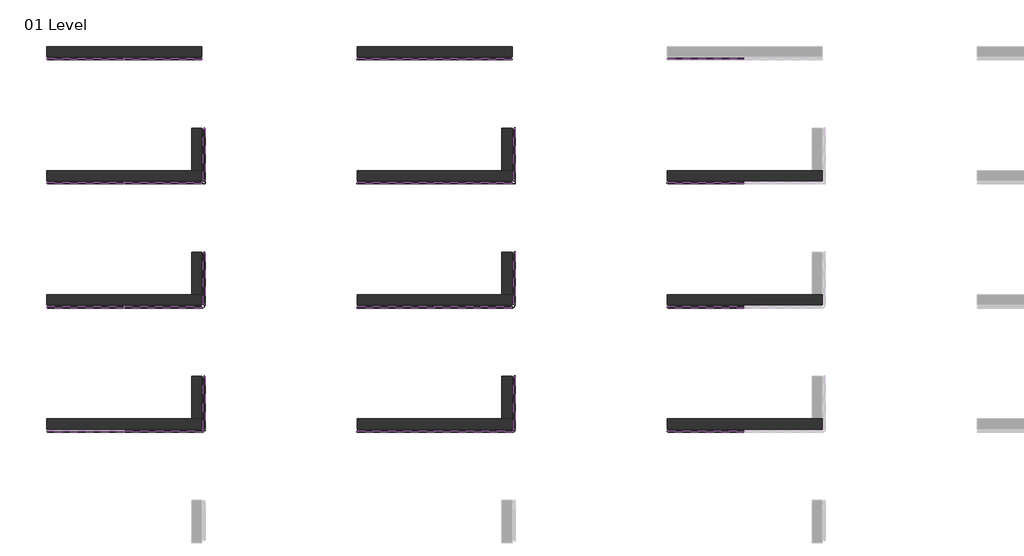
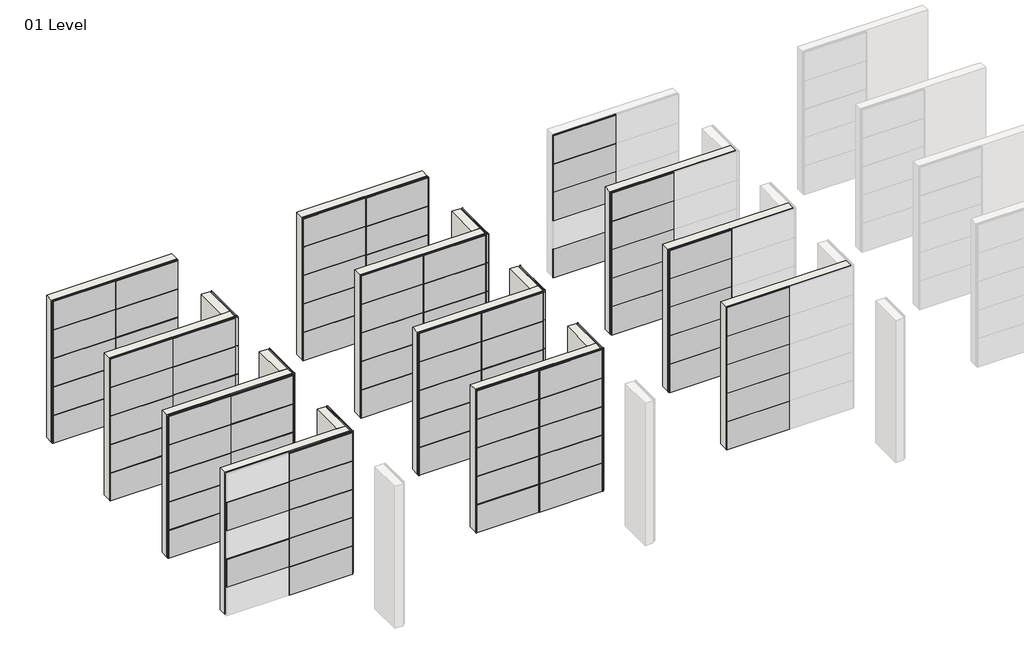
# One storey, part 7 of 9: 126 plates, 17 walls.
"""IFC4 building model written with IfcOpenShell, lengths in millimetres."""

from ifc_helpers import new_model, si_unit, origin, origin_with_axes, place, context, project, spatial, polyline, outline, extrude, faceted_brep, transform, mapped, element, save
from components import plate_15c921bf, plate_de628dbf, plate_a0032974, plate_63a3148d, plate_7878da5e, plate_3f1cfa51, plate_16f9e6c7, plate_a6211809, plate_71f49f83, plate_fe9ce33a, plate_b385fc11, plate_c9a1b884, plate_4a609bfb, plate_784343d8, plate_0904af44

model = new_model("IFC4")

# Units and contexts
model_context = context("Model", 3, world=origin())
ifc_project = project(units=[si_unit("LENGTHUNIT", "METRE", prefix="MILLI")], contexts=[model_context])

# Site, building, storey
site = spatial("IfcSite", under=ifc_project)
building = spatial("IfcBuilding", under=site)
storey = spatial("IfcBuildingStorey", under=building, Name="01 Level", Elevation=0.0)

# Plates
placement = place(None, origin())
plate_shape = plate_15c921bf(model_context)
element("IfcPlate", 1, ObjectType="Trimo_Qbiss Screen_Normal Panel-HORIZONTAL : HR - B", at=placement, inside=storey, context=model_context, shape_type="MappedRepresentation", body=[
    mapped(plate_shape, transform((-34952.2237135, 12916.7286683, 0.0), x_axis=(-1.0, 0.0, 0.0), y_axis=(0.0, -1.0, 0.0), z_axis=(0.0, 0.0, 1.0))),
])
element("IfcPlate", 2, ObjectType="Trimo_Qbiss Screen_Normal Panel-HORIZONTAL : HR - B", at=placement, inside=storey, context=model_context, shape_type="MappedRepresentation", body=[
    mapped(plate_shape, transform((-37452.2237135, 12916.7286683, 0.0), x_axis=(-1.0, 0.0, 0.0), y_axis=(0.0, -1.0, 0.0), z_axis=(0.0, 0.0, 1.0))),
])
element("IfcPlate", 3, ObjectType="Trimo_Qbiss Screen_Normal Panel-HORIZONTAL : HR - B", at=placement, inside=storey, context=model_context, shape_type="MappedRepresentation", body=[
    mapped(plate_shape, transform((-34952.2237135, 12916.7286683, 4800.0), x_axis=(-1.0, 0.0, 0.0), y_axis=(0.0, -1.0, 0.0), z_axis=(0.0, 0.0, 1.0))),
])
element("IfcPlate", 4, ObjectType="Trimo_Qbiss Screen_Normal Panel-HORIZONTAL : HR - B", at=placement, inside=storey, context=model_context, shape_type="MappedRepresentation", body=[
    mapped(plate_shape, transform((-37452.2237135, 12916.7286683, 4800.0), x_axis=(-1.0, 0.0, 0.0), y_axis=(0.0, -1.0, 0.0), z_axis=(0.0, 0.0, 1.0))),
])
element("IfcPlate", 5, ObjectType="Trimo_Qbiss Screen_Normal Panel-HORIZONTAL : HR - B", at=placement, inside=storey, context=model_context, shape_type="MappedRepresentation", body=[
    mapped(plate_shape, transform((-34952.2237135, 12916.7286683, 2400.0), x_axis=(-1.0, 0.0, 0.0), y_axis=(0.0, -1.0, 0.0), z_axis=(0.0, 0.0, 1.0))),
])
element("IfcPlate", 6, ObjectType="Trimo_Qbiss Screen_Normal Panel-HORIZONTAL : HR - B", at=placement, inside=storey, context=model_context, shape_type="MappedRepresentation", body=[
    mapped(plate_shape, transform((-37452.2237135, 12916.7286683, 2400.0), x_axis=(-1.0, 0.0, 0.0), y_axis=(0.0, -1.0, 0.0), z_axis=(0.0, 0.0, 1.0))),
])
element("IfcPlate", 7, ObjectType="Trimo_Qbiss Screen_Normal Panel-HORIZONTAL : HR - B", at=placement, inside=storey, context=model_context, shape_type="MappedRepresentation", body=[
    mapped(plate_shape, transform((-34952.2237135, 12916.7286683, 3600.0), x_axis=(-1.0, 0.0, 0.0), y_axis=(0.0, -1.0, 0.0), z_axis=(0.0, 0.0, 1.0))),
])
element("IfcPlate", 8, ObjectType="Trimo_Qbiss Screen_Normal Panel-HORIZONTAL : HR - B", at=placement, inside=storey, context=model_context, shape_type="MappedRepresentation", body=[
    mapped(plate_shape, transform((-37452.2237135, 12916.7286683, 3600.0), x_axis=(-1.0, 0.0, 0.0), y_axis=(0.0, -1.0, 0.0), z_axis=(0.0, 0.0, 1.0))),
])
element("IfcPlate", 9, ObjectType="Trimo_Qbiss Screen_Normal Panel-HORIZONTAL : HR - B", at=placement, inside=storey, context=model_context, shape_type="MappedRepresentation", body=[
    mapped(plate_shape, transform((-34952.2237135, 12916.7286683, 1200.0), x_axis=(-1.0, 0.0, 0.0), y_axis=(0.0, -1.0, 0.0), z_axis=(0.0, 0.0, 1.0))),
])
element("IfcPlate", 10, ObjectType="Trimo_Qbiss Screen_Normal Panel-HORIZONTAL : HR - B", at=placement, inside=storey, context=model_context, shape_type="MappedRepresentation", body=[
    mapped(plate_shape, transform((-37452.2237135, 12916.7286683, 1200.0), x_axis=(-1.0, 0.0, 0.0), y_axis=(0.0, -1.0, 0.0), z_axis=(0.0, 0.0, 1.0))),
])
element("IfcPlate", 11, ObjectType="Trimo_Qbiss Screen_Normal Panel-HORIZONTAL : HR - B", at=placement, inside=storey, context=model_context, shape_type="MappedRepresentation", body=[
    mapped(plate_shape, transform((-37452.2237135, 8916.7286683, 0.0), x_axis=(-1.0, 0.0, 0.0), y_axis=(0.0, -1.0, 0.0), z_axis=(0.0, 0.0, 1.0))),
])
element("IfcPlate", 12, ObjectType="Trimo_Qbiss Screen_Normal Panel-HORIZONTAL : HR - B", at=placement, inside=storey, context=model_context, shape_type="MappedRepresentation", body=[
    mapped(plate_shape, transform((-37452.2237135, 8916.7286683, 4800.0), x_axis=(-1.0, 0.0, 0.0), y_axis=(0.0, -1.0, 0.0), z_axis=(0.0, 0.0, 1.0))),
])
element("IfcPlate", 13, ObjectType="Trimo_Qbiss Screen_Normal Panel-HORIZONTAL : HR - B", at=placement, inside=storey, context=model_context, shape_type="MappedRepresentation", body=[
    mapped(plate_shape, transform((-37452.2237135, 8916.7286683, 2400.0), x_axis=(-1.0, 0.0, 0.0), y_axis=(0.0, -1.0, 0.0), z_axis=(0.0, 0.0, 1.0))),
])
element("IfcPlate", 14, ObjectType="Trimo_Qbiss Screen_Normal Panel-HORIZONTAL : HR - B", at=placement, inside=storey, context=model_context, shape_type="MappedRepresentation", body=[
    mapped(plate_shape, transform((-37452.2237135, 8916.7286683, 3600.0), x_axis=(-1.0, 0.0, 0.0), y_axis=(0.0, -1.0, 0.0), z_axis=(0.0, 0.0, 1.0))),
])
element("IfcPlate", 15, ObjectType="Trimo_Qbiss Screen_Normal Panel-HORIZONTAL : HR - B", at=placement, inside=storey, context=model_context, shape_type="MappedRepresentation", body=[
    mapped(plate_shape, transform((-37452.2237135, 8916.7286683, 1200.0), x_axis=(-1.0, 0.0, 0.0), y_axis=(0.0, -1.0, 0.0), z_axis=(0.0, 0.0, 1.0))),
])
element("IfcPlate", 16, ObjectType="Trimo_Qbiss Screen_Normal Panel-HORIZONTAL : HR - B", at=placement, inside=storey, context=model_context, shape_type="MappedRepresentation", body=[
    mapped(plate_shape, transform((-37452.2237135, 4916.7286683, 0.0), x_axis=(-1.0, 0.0, 0.0), y_axis=(0.0, -1.0, 0.0), z_axis=(0.0, 0.0, 1.0))),
])
element("IfcPlate", 17, ObjectType="Trimo_Qbiss Screen_Normal Panel-HORIZONTAL : HR - B", at=placement, inside=storey, context=model_context, shape_type="MappedRepresentation", body=[
    mapped(plate_shape, transform((-37452.2237135, 4916.7286683, 4800.0), x_axis=(-1.0, 0.0, 0.0), y_axis=(0.0, -1.0, 0.0), z_axis=(0.0, 0.0, 1.0))),
])
element("IfcPlate", 18, ObjectType="Trimo_Qbiss Screen_Normal Panel-HORIZONTAL : HR - B", at=placement, inside=storey, context=model_context, shape_type="MappedRepresentation", body=[
    mapped(plate_shape, transform((-37452.2237135, 4916.7286683, 2400.0), x_axis=(-1.0, 0.0, 0.0), y_axis=(0.0, -1.0, 0.0), z_axis=(0.0, 0.0, 1.0))),
])
element("IfcPlate", 19, ObjectType="Trimo_Qbiss Screen_Normal Panel-HORIZONTAL : HR - B", at=placement, inside=storey, context=model_context, shape_type="MappedRepresentation", body=[
    mapped(plate_shape, transform((-37452.2237135, 4916.7286683, 3600.0), x_axis=(-1.0, 0.0, 0.0), y_axis=(0.0, -1.0, 0.0), z_axis=(0.0, 0.0, 1.0))),
])
element("IfcPlate", 20, ObjectType="Trimo_Qbiss Screen_Normal Panel-HORIZONTAL : HR - B", at=placement, inside=storey, context=model_context, shape_type="MappedRepresentation", body=[
    mapped(plate_shape, transform((-37452.2237135, 4916.7286683, 1200.0), x_axis=(-1.0, 0.0, 0.0), y_axis=(0.0, -1.0, 0.0), z_axis=(0.0, 0.0, 1.0))),
])
element("IfcPlate", 21, ObjectType="Trimo_Qbiss Screen_Normal Panel-HORIZONTAL : HR - B", at=placement, inside=storey, context=model_context, shape_type="MappedRepresentation", body=[
    mapped(plate_shape, transform((-37452.2237135, 916.7286683, 3600.0), x_axis=(-1.0, 0.0, 0.0), y_axis=(0.0, -1.0, 0.0), z_axis=(0.0, 0.0, 1.0))),
])
element("IfcPlate", 22, ObjectType="Trimo_Qbiss Screen_Normal Panel-HORIZONTAL : HR - B", at=placement, inside=storey, context=model_context, shape_type="MappedRepresentation", body=[
    mapped(plate_shape, transform((-37452.2237135, 916.7286683, 1200.0), x_axis=(-1.0, 0.0, 0.0), y_axis=(0.0, -1.0, 0.0), z_axis=(0.0, 0.0, 1.0))),
])
plate_2_shape = plate_de628dbf(model_context)
element("IfcPlate", 23, ObjectType="Trimo_Qbiss Screen_Normal Panel-HORIZONTAL : HR - B", at=placement, inside=storey, context=model_context, shape_type="MappedRepresentation", body=[
    mapped(plate_2_shape, transform((-34952.2237135, 8916.7286683, 0.0), x_axis=(-1.0, 0.0, 0.0), y_axis=(0.0, -1.0, 0.0), z_axis=(0.0, 0.0, 1.0))),
])
element("IfcPlate", 24, ObjectType="Trimo_Qbiss Screen_Normal Panel-HORIZONTAL : HR - B", at=placement, inside=storey, context=model_context, shape_type="MappedRepresentation", body=[
    mapped(plate_2_shape, transform((-34952.2237135, 8916.7286683, 4800.0), x_axis=(-1.0, 0.0, 0.0), y_axis=(0.0, -1.0, 0.0), z_axis=(0.0, 0.0, 1.0))),
])
element("IfcPlate", 25, ObjectType="Trimo_Qbiss Screen_Normal Panel-HORIZONTAL : HR - B", at=placement, inside=storey, context=model_context, shape_type="MappedRepresentation", body=[
    mapped(plate_2_shape, transform((-34952.2237135, 8916.7286683, 2400.0), x_axis=(-1.0, 0.0, 0.0), y_axis=(0.0, -1.0, 0.0), z_axis=(0.0, 0.0, 1.0))),
])
element("IfcPlate", 26, ObjectType="Trimo_Qbiss Screen_Normal Panel-HORIZONTAL : HR - B", at=placement, inside=storey, context=model_context, shape_type="MappedRepresentation", body=[
    mapped(plate_2_shape, transform((-34952.2237135, 8916.7286683, 3600.0), x_axis=(-1.0, 0.0, 0.0), y_axis=(0.0, -1.0, 0.0), z_axis=(0.0, 0.0, 1.0))),
])
element("IfcPlate", 27, ObjectType="Trimo_Qbiss Screen_Normal Panel-HORIZONTAL : HR - B", at=placement, inside=storey, context=model_context, shape_type="MappedRepresentation", body=[
    mapped(plate_2_shape, transform((-34952.2237135, 8916.7286683, 1200.0), x_axis=(-1.0, 0.0, 0.0), y_axis=(0.0, -1.0, 0.0), z_axis=(0.0, 0.0, 1.0))),
])
plate_3_shape = plate_a0032974(model_context)
element("IfcPlate", 28, ObjectType="Trimo_Qbiss Screen_Normal Panel-HORIZONTAL : HR - B", at=placement, inside=storey, context=model_context, shape_type="MappedRepresentation", body=[
    mapped(plate_3_shape, transform((-34952.2237135, 4916.7286683, 0.0), x_axis=(-1.0, 0.0, 0.0), y_axis=(0.0, -1.0, 0.0), z_axis=(0.0, 0.0, 1.0))),
])
element("IfcPlate", 29, ObjectType="Trimo_Qbiss Screen_Normal Panel-HORIZONTAL : HR - B", at=placement, inside=storey, context=model_context, shape_type="MappedRepresentation", body=[
    mapped(plate_3_shape, transform((-34952.2237135, 4916.7286683, 4800.0), x_axis=(-1.0, 0.0, 0.0), y_axis=(0.0, -1.0, 0.0), z_axis=(0.0, 0.0, 1.0))),
])
element("IfcPlate", 30, ObjectType="Trimo_Qbiss Screen_Normal Panel-HORIZONTAL : HR - B", at=placement, inside=storey, context=model_context, shape_type="MappedRepresentation", body=[
    mapped(plate_3_shape, transform((-34952.2237135, 4916.7286683, 2400.0), x_axis=(-1.0, 0.0, 0.0), y_axis=(0.0, -1.0, 0.0), z_axis=(0.0, 0.0, 1.0))),
])
element("IfcPlate", 31, ObjectType="Trimo_Qbiss Screen_Normal Panel-HORIZONTAL : HR - B", at=placement, inside=storey, context=model_context, shape_type="MappedRepresentation", body=[
    mapped(plate_3_shape, transform((-34952.2237135, 4916.7286683, 3600.0), x_axis=(-1.0, 0.0, 0.0), y_axis=(0.0, -1.0, 0.0), z_axis=(0.0, 0.0, 1.0))),
])
element("IfcPlate", 32, ObjectType="Trimo_Qbiss Screen_Normal Panel-HORIZONTAL : HR - B", at=placement, inside=storey, context=model_context, shape_type="MappedRepresentation", body=[
    mapped(plate_3_shape, transform((-34952.2237135, 4916.7286683, 1200.0), x_axis=(-1.0, 0.0, 0.0), y_axis=(0.0, -1.0, 0.0), z_axis=(0.0, 0.0, 1.0))),
])
plate_4_shape = plate_63a3148d(model_context)
element("IfcPlate", 33, ObjectType="Trimo_Qbiss Screen_Normal Panel-HORIZONTAL : HR - B", at=placement, inside=storey, context=model_context, shape_type="MappedRepresentation", body=[
    mapped(plate_4_shape, transform((-34952.2237135, 916.7286683, 0.0), x_axis=(-1.0, 0.0, 0.0), y_axis=(0.0, -1.0, 0.0), z_axis=(0.0, 0.0, 1.0))),
])
element("IfcPlate", 34, ObjectType="Trimo_Qbiss Screen_Normal Panel-HORIZONTAL : HR - B", at=placement, inside=storey, context=model_context, shape_type="MappedRepresentation", body=[
    mapped(plate_4_shape, transform((-34952.2237135, 916.7286683, 4800.0), x_axis=(-1.0, 0.0, 0.0), y_axis=(0.0, -1.0, 0.0), z_axis=(0.0, 0.0, 1.0))),
])
element("IfcPlate", 35, ObjectType="Trimo_Qbiss Screen_Normal Panel-HORIZONTAL : HR - B", at=placement, inside=storey, context=model_context, shape_type="MappedRepresentation", body=[
    mapped(plate_4_shape, transform((-34952.2237135, 916.7286683, 2400.0), x_axis=(-1.0, 0.0, 0.0), y_axis=(0.0, -1.0, 0.0), z_axis=(0.0, 0.0, 1.0))),
])
element("IfcPlate", 36, ObjectType="Trimo_Qbiss Screen_Normal Panel-HORIZONTAL : HR - B", at=placement, inside=storey, context=model_context, shape_type="MappedRepresentation", body=[
    mapped(plate_4_shape, transform((-34952.2237135, 916.7286683, 3600.0), x_axis=(-1.0, 0.0, 0.0), y_axis=(0.0, -1.0, 0.0), z_axis=(0.0, 0.0, 1.0))),
])
element("IfcPlate", 37, ObjectType="Trimo_Qbiss Screen_Normal Panel-HORIZONTAL : HR - B", at=placement, inside=storey, context=model_context, shape_type="MappedRepresentation", body=[
    mapped(plate_4_shape, transform((-34952.2237135, 916.7286683, 1200.0), x_axis=(-1.0, 0.0, 0.0), y_axis=(0.0, -1.0, 0.0), z_axis=(0.0, 0.0, 1.0))),
])
plate_5_shape = plate_7878da5e(model_context)
element("IfcPlate", 38, ObjectType="Trimo_Qbiss Screen_Normal Panel-HORIZONTAL : HR - B", at=placement, inside=storey, context=model_context, shape_type="MappedRepresentation", body=[
    mapped(plate_5_shape, transform((-33702.2237135, 9766.7286683, 0.0), x_axis=(0.0, -1.0, 0.0), y_axis=(1.0, 0.0, 0.0), z_axis=(0.0, 0.0, 1.0))),
])
element("IfcPlate", 39, ObjectType="Trimo_Qbiss Screen_Normal Panel-HORIZONTAL : HR - B", at=placement, inside=storey, context=model_context, shape_type="MappedRepresentation", body=[
    mapped(plate_5_shape, transform((-33702.2237135, 9766.7286683, 4800.0), x_axis=(0.0, -1.0, 0.0), y_axis=(1.0, 0.0, 0.0), z_axis=(0.0, 0.0, 1.0))),
])
element("IfcPlate", 40, ObjectType="Trimo_Qbiss Screen_Normal Panel-HORIZONTAL : HR - B", at=placement, inside=storey, context=model_context, shape_type="MappedRepresentation", body=[
    mapped(plate_5_shape, transform((-33702.2237135, 9766.7286683, 3600.0), x_axis=(0.0, -1.0, 0.0), y_axis=(1.0, 0.0, 0.0), z_axis=(0.0, 0.0, 1.0))),
])
element("IfcPlate", 41, ObjectType="Trimo_Qbiss Screen_Normal Panel-HORIZONTAL : HR - B", at=placement, inside=storey, context=model_context, shape_type="MappedRepresentation", body=[
    mapped(plate_5_shape, transform((-33702.2237135, 9766.7286683, 2400.0), x_axis=(0.0, -1.0, 0.0), y_axis=(1.0, 0.0, 0.0), z_axis=(0.0, 0.0, 1.0))),
])
element("IfcPlate", 42, ObjectType="Trimo_Qbiss Screen_Normal Panel-HORIZONTAL : HR - B", at=placement, inside=storey, context=model_context, shape_type="MappedRepresentation", body=[
    mapped(plate_5_shape, transform((-33702.2237135, 9766.7286683, 1200.0), x_axis=(0.0, -1.0, 0.0), y_axis=(1.0, 0.0, 0.0), z_axis=(0.0, 0.0, 1.0))),
])
plate_6_shape = plate_3f1cfa51(model_context)
element("IfcPlate", 43, ObjectType="Trimo_Qbiss Screen_Normal Panel-HORIZONTAL : HR - B", at=placement, inside=storey, context=model_context, shape_type="MappedRepresentation", body=[
    mapped(plate_6_shape, transform((-33702.2237135, 5766.7286683, 0.0), x_axis=(0.0, -1.0, 0.0), y_axis=(1.0, 0.0, 0.0), z_axis=(0.0, 0.0, 1.0))),
])
element("IfcPlate", 44, ObjectType="Trimo_Qbiss Screen_Normal Panel-HORIZONTAL : HR - B", at=placement, inside=storey, context=model_context, shape_type="MappedRepresentation", body=[
    mapped(plate_6_shape, transform((-33702.2237135, 5766.7286683, 4800.0), x_axis=(0.0, -1.0, 0.0), y_axis=(1.0, 0.0, 0.0), z_axis=(0.0, 0.0, 1.0))),
])
element("IfcPlate", 45, ObjectType="Trimo_Qbiss Screen_Normal Panel-HORIZONTAL : HR - B", at=placement, inside=storey, context=model_context, shape_type="MappedRepresentation", body=[
    mapped(plate_6_shape, transform((-33702.2237135, 5766.7286683, 2400.0), x_axis=(0.0, -1.0, 0.0), y_axis=(1.0, 0.0, 0.0), z_axis=(0.0, 0.0, 1.0))),
])
element("IfcPlate", 46, ObjectType="Trimo_Qbiss Screen_Normal Panel-HORIZONTAL : HR - B", at=placement, inside=storey, context=model_context, shape_type="MappedRepresentation", body=[
    mapped(plate_6_shape, transform((-33702.2237135, 5766.7286683, 3600.0), x_axis=(0.0, -1.0, 0.0), y_axis=(1.0, 0.0, 0.0), z_axis=(0.0, 0.0, 1.0))),
])
element("IfcPlate", 47, ObjectType="Trimo_Qbiss Screen_Normal Panel-HORIZONTAL : HR - B", at=placement, inside=storey, context=model_context, shape_type="MappedRepresentation", body=[
    mapped(plate_6_shape, transform((-33702.2237135, 5766.7286683, 1200.0), x_axis=(0.0, -1.0, 0.0), y_axis=(1.0, 0.0, 0.0), z_axis=(0.0, 0.0, 1.0))),
])
plate_7_shape = plate_16f9e6c7(model_context)
element("IfcPlate", 48, ObjectType="Trimo_Qbiss Screen_Normal Panel-HORIZONTAL : HR - B", at=placement, inside=storey, context=model_context, shape_type="MappedRepresentation", body=[
    mapped(plate_7_shape, transform((-33702.2237135, 1766.7286683, 0.0), x_axis=(0.0, -1.0, 0.0), y_axis=(1.0, 0.0, 0.0), z_axis=(0.0, 0.0, 1.0))),
])
element("IfcPlate", 49, ObjectType="Trimo_Qbiss Screen_Normal Panel-HORIZONTAL : HR - B", at=placement, inside=storey, context=model_context, shape_type="MappedRepresentation", body=[
    mapped(plate_7_shape, transform((-33702.2237135, 1766.7286683, 4800.0), x_axis=(0.0, -1.0, 0.0), y_axis=(1.0, 0.0, 0.0), z_axis=(0.0, 0.0, 1.0))),
])
element("IfcPlate", 50, ObjectType="Trimo_Qbiss Screen_Normal Panel-HORIZONTAL : HR - B", at=placement, inside=storey, context=model_context, shape_type="MappedRepresentation", body=[
    mapped(plate_7_shape, transform((-33702.2237135, 1766.7286683, 2400.0), x_axis=(0.0, -1.0, 0.0), y_axis=(1.0, 0.0, 0.0), z_axis=(0.0, 0.0, 1.0))),
])
element("IfcPlate", 51, ObjectType="Trimo_Qbiss Screen_Normal Panel-HORIZONTAL : HR - B", at=placement, inside=storey, context=model_context, shape_type="MappedRepresentation", body=[
    mapped(plate_7_shape, transform((-33702.2237135, 1766.7286683, 3600.0), x_axis=(0.0, -1.0, 0.0), y_axis=(1.0, 0.0, 0.0), z_axis=(0.0, 0.0, 1.0))),
])
element("IfcPlate", 52, ObjectType="Trimo_Qbiss Screen_Normal Panel-HORIZONTAL : HR - B", at=placement, inside=storey, context=model_context, shape_type="MappedRepresentation", body=[
    mapped(plate_7_shape, transform((-33702.2237135, 1766.7286683, 1200.0), x_axis=(0.0, -1.0, 0.0), y_axis=(1.0, 0.0, 0.0), z_axis=(0.0, 0.0, 1.0))),
])
plate_8_shape = plate_a6211809(model_context)
element("IfcPlate", 53, ObjectType="Trimo_Qbiss Screen_Normal Panel-HORIZONTAL : HR - B-F", at=placement, inside=storey, context=model_context, shape_type="MappedRepresentation", body=[
    mapped(plate_8_shape, transform((-24952.2237135, 12916.7286683, 0.0), x_axis=(-1.0, 0.0, 0.0), y_axis=(0.0, -1.0, 0.0), z_axis=(0.0, 0.0, 1.0))),
])
element("IfcPlate", 54, ObjectType="Trimo_Qbiss Screen_Normal Panel-HORIZONTAL : HR - B-F", at=placement, inside=storey, context=model_context, shape_type="MappedRepresentation", body=[
    mapped(plate_8_shape, transform((-27452.2237135, 12916.7286683, 0.0), x_axis=(-1.0, 0.0, 0.0), y_axis=(0.0, -1.0, 0.0), z_axis=(0.0, 0.0, 1.0))),
])
element("IfcPlate", 55, ObjectType="Trimo_Qbiss Screen_Normal Panel-HORIZONTAL : HR - B-F", at=placement, inside=storey, context=model_context, shape_type="MappedRepresentation", body=[
    mapped(plate_8_shape, transform((-24952.2237135, 12916.7286683, 4800.0), x_axis=(-1.0, 0.0, 0.0), y_axis=(0.0, -1.0, 0.0), z_axis=(0.0, 0.0, 1.0))),
])
element("IfcPlate", 56, ObjectType="Trimo_Qbiss Screen_Normal Panel-HORIZONTAL : HR - B-F", at=placement, inside=storey, context=model_context, shape_type="MappedRepresentation", body=[
    mapped(plate_8_shape, transform((-27452.2237135, 12916.7286683, 4800.0), x_axis=(-1.0, 0.0, 0.0), y_axis=(0.0, -1.0, 0.0), z_axis=(0.0, 0.0, 1.0))),
])
element("IfcPlate", 57, ObjectType="Trimo_Qbiss Screen_Normal Panel-HORIZONTAL : HR - B-F", at=placement, inside=storey, context=model_context, shape_type="MappedRepresentation", body=[
    mapped(plate_8_shape, transform((-24952.2237135, 12916.7286683, 2400.0), x_axis=(-1.0, 0.0, 0.0), y_axis=(0.0, -1.0, 0.0), z_axis=(0.0, 0.0, 1.0))),
])
element("IfcPlate", 58, ObjectType="Trimo_Qbiss Screen_Normal Panel-HORIZONTAL : HR - B-F", at=placement, inside=storey, context=model_context, shape_type="MappedRepresentation", body=[
    mapped(plate_8_shape, transform((-27452.2237135, 12916.7286683, 2400.0), x_axis=(-1.0, 0.0, 0.0), y_axis=(0.0, -1.0, 0.0), z_axis=(0.0, 0.0, 1.0))),
])
element("IfcPlate", 59, ObjectType="Trimo_Qbiss Screen_Normal Panel-HORIZONTAL : HR - B-F", at=placement, inside=storey, context=model_context, shape_type="MappedRepresentation", body=[
    mapped(plate_8_shape, transform((-24952.2237135, 12916.7286683, 3600.0), x_axis=(-1.0, 0.0, 0.0), y_axis=(0.0, -1.0, 0.0), z_axis=(0.0, 0.0, 1.0))),
])
element("IfcPlate", 60, ObjectType="Trimo_Qbiss Screen_Normal Panel-HORIZONTAL : HR - B-F", at=placement, inside=storey, context=model_context, shape_type="MappedRepresentation", body=[
    mapped(plate_8_shape, transform((-27452.2237135, 12916.7286683, 3600.0), x_axis=(-1.0, 0.0, 0.0), y_axis=(0.0, -1.0, 0.0), z_axis=(0.0, 0.0, 1.0))),
])
element("IfcPlate", 61, ObjectType="Trimo_Qbiss Screen_Normal Panel-HORIZONTAL : HR - B-F", at=placement, inside=storey, context=model_context, shape_type="MappedRepresentation", body=[
    mapped(plate_8_shape, transform((-24952.2237135, 12916.7286683, 1200.0), x_axis=(-1.0, 0.0, 0.0), y_axis=(0.0, -1.0, 0.0), z_axis=(0.0, 0.0, 1.0))),
])
element("IfcPlate", 62, ObjectType="Trimo_Qbiss Screen_Normal Panel-HORIZONTAL : HR - B-F", at=placement, inside=storey, context=model_context, shape_type="MappedRepresentation", body=[
    mapped(plate_8_shape, transform((-27452.2237135, 12916.7286683, 1200.0), x_axis=(-1.0, 0.0, 0.0), y_axis=(0.0, -1.0, 0.0), z_axis=(0.0, 0.0, 1.0))),
])
element("IfcPlate", 63, ObjectType="Trimo_Qbiss Screen_Normal Panel-HORIZONTAL : HR - B-F", at=placement, inside=storey, context=model_context, shape_type="MappedRepresentation", body=[
    mapped(plate_8_shape, transform((-27452.2237135, 8916.7286683, 0.0), x_axis=(-1.0, 0.0, 0.0), y_axis=(0.0, -1.0, 0.0), z_axis=(0.0, 0.0, 1.0))),
])
element("IfcPlate", 64, ObjectType="Trimo_Qbiss Screen_Normal Panel-HORIZONTAL : HR - B-F", at=placement, inside=storey, context=model_context, shape_type="MappedRepresentation", body=[
    mapped(plate_8_shape, transform((-27452.2237135, 8916.7286683, 4800.0), x_axis=(-1.0, 0.0, 0.0), y_axis=(0.0, -1.0, 0.0), z_axis=(0.0, 0.0, 1.0))),
])
element("IfcPlate", 65, ObjectType="Trimo_Qbiss Screen_Normal Panel-HORIZONTAL : HR - B-F", at=placement, inside=storey, context=model_context, shape_type="MappedRepresentation", body=[
    mapped(plate_8_shape, transform((-27452.2237135, 8916.7286683, 2400.0), x_axis=(-1.0, 0.0, 0.0), y_axis=(0.0, -1.0, 0.0), z_axis=(0.0, 0.0, 1.0))),
])
element("IfcPlate", 66, ObjectType="Trimo_Qbiss Screen_Normal Panel-HORIZONTAL : HR - B-F", at=placement, inside=storey, context=model_context, shape_type="MappedRepresentation", body=[
    mapped(plate_8_shape, transform((-27452.2237135, 8916.7286683, 3600.0), x_axis=(-1.0, 0.0, 0.0), y_axis=(0.0, -1.0, 0.0), z_axis=(0.0, 0.0, 1.0))),
])
element("IfcPlate", 67, ObjectType="Trimo_Qbiss Screen_Normal Panel-HORIZONTAL : HR - B-F", at=placement, inside=storey, context=model_context, shape_type="MappedRepresentation", body=[
    mapped(plate_8_shape, transform((-27452.2237135, 8916.7286683, 1200.0), x_axis=(-1.0, 0.0, 0.0), y_axis=(0.0, -1.0, 0.0), z_axis=(0.0, 0.0, 1.0))),
])
element("IfcPlate", 68, ObjectType="Trimo_Qbiss Screen_Normal Panel-HORIZONTAL : HR - B-F", at=placement, inside=storey, context=model_context, shape_type="MappedRepresentation", body=[
    mapped(plate_8_shape, transform((-27452.2237135, 4916.7286683, 0.0), x_axis=(-1.0, 0.0, 0.0), y_axis=(0.0, -1.0, 0.0), z_axis=(0.0, 0.0, 1.0))),
])
element("IfcPlate", 69, ObjectType="Trimo_Qbiss Screen_Normal Panel-HORIZONTAL : HR - B-F", at=placement, inside=storey, context=model_context, shape_type="MappedRepresentation", body=[
    mapped(plate_8_shape, transform((-27452.2237135, 4916.7286683, 4800.0), x_axis=(-1.0, 0.0, 0.0), y_axis=(0.0, -1.0, 0.0), z_axis=(0.0, 0.0, 1.0))),
])
element("IfcPlate", 70, ObjectType="Trimo_Qbiss Screen_Normal Panel-HORIZONTAL : HR - B-F", at=placement, inside=storey, context=model_context, shape_type="MappedRepresentation", body=[
    mapped(plate_8_shape, transform((-27452.2237135, 4916.7286683, 2400.0), x_axis=(-1.0, 0.0, 0.0), y_axis=(0.0, -1.0, 0.0), z_axis=(0.0, 0.0, 1.0))),
])
element("IfcPlate", 71, ObjectType="Trimo_Qbiss Screen_Normal Panel-HORIZONTAL : HR - B-F", at=placement, inside=storey, context=model_context, shape_type="MappedRepresentation", body=[
    mapped(plate_8_shape, transform((-27452.2237135, 4916.7286683, 3600.0), x_axis=(-1.0, 0.0, 0.0), y_axis=(0.0, -1.0, 0.0), z_axis=(0.0, 0.0, 1.0))),
])
element("IfcPlate", 72, ObjectType="Trimo_Qbiss Screen_Normal Panel-HORIZONTAL : HR - B-F", at=placement, inside=storey, context=model_context, shape_type="MappedRepresentation", body=[
    mapped(plate_8_shape, transform((-27452.2237135, 4916.7286683, 1200.0), x_axis=(-1.0, 0.0, 0.0), y_axis=(0.0, -1.0, 0.0), z_axis=(0.0, 0.0, 1.0))),
])
element("IfcPlate", 73, ObjectType="Trimo_Qbiss Screen_Normal Panel-HORIZONTAL : HR - B-F", at=placement, inside=storey, context=model_context, shape_type="MappedRepresentation", body=[
    mapped(plate_8_shape, transform((-27452.2237135, 916.7286683, 0.0), x_axis=(-1.0, 0.0, 0.0), y_axis=(0.0, -1.0, 0.0), z_axis=(0.0, 0.0, 1.0))),
])
element("IfcPlate", 74, ObjectType="Trimo_Qbiss Screen_Normal Panel-HORIZONTAL : HR - B-F", at=placement, inside=storey, context=model_context, shape_type="MappedRepresentation", body=[
    mapped(plate_8_shape, transform((-27452.2237135, 916.7286683, 4800.0), x_axis=(-1.0, 0.0, 0.0), y_axis=(0.0, -1.0, 0.0), z_axis=(0.0, 0.0, 1.0))),
])
element("IfcPlate", 75, ObjectType="Trimo_Qbiss Screen_Normal Panel-HORIZONTAL : HR - B-F", at=placement, inside=storey, context=model_context, shape_type="MappedRepresentation", body=[
    mapped(plate_8_shape, transform((-27452.2237135, 916.7286683, 2400.0), x_axis=(-1.0, 0.0, 0.0), y_axis=(0.0, -1.0, 0.0), z_axis=(0.0, 0.0, 1.0))),
])
element("IfcPlate", 76, ObjectType="Trimo_Qbiss Screen_Normal Panel-HORIZONTAL : HR - B-F", at=placement, inside=storey, context=model_context, shape_type="MappedRepresentation", body=[
    mapped(plate_8_shape, transform((-27452.2237135, 916.7286683, 3600.0), x_axis=(-1.0, 0.0, 0.0), y_axis=(0.0, -1.0, 0.0), z_axis=(0.0, 0.0, 1.0))),
])
element("IfcPlate", 77, ObjectType="Trimo_Qbiss Screen_Normal Panel-HORIZONTAL : HR - B-F", at=placement, inside=storey, context=model_context, shape_type="MappedRepresentation", body=[
    mapped(plate_8_shape, transform((-27452.2237135, 916.7286683, 1200.0), x_axis=(-1.0, 0.0, 0.0), y_axis=(0.0, -1.0, 0.0), z_axis=(0.0, 0.0, 1.0))),
])
plate_9_shape = plate_71f49f83(model_context)
element("IfcPlate", 78, ObjectType="Trimo_Qbiss Screen_Normal Panel-HORIZONTAL : HR - B-F", at=placement, inside=storey, context=model_context, shape_type="MappedRepresentation", body=[
    mapped(plate_9_shape, transform((-24952.2237135, 8916.7286683, 0.0), x_axis=(-1.0, 0.0, 0.0), y_axis=(0.0, -1.0, 0.0), z_axis=(0.0, 0.0, 1.0))),
])
element("IfcPlate", 79, ObjectType="Trimo_Qbiss Screen_Normal Panel-HORIZONTAL : HR - B-F", at=placement, inside=storey, context=model_context, shape_type="MappedRepresentation", body=[
    mapped(plate_9_shape, transform((-24952.2237135, 8916.7286683, 4800.0), x_axis=(-1.0, 0.0, 0.0), y_axis=(0.0, -1.0, 0.0), z_axis=(0.0, 0.0, 1.0))),
])
element("IfcPlate", 80, ObjectType="Trimo_Qbiss Screen_Normal Panel-HORIZONTAL : HR - B-F", at=placement, inside=storey, context=model_context, shape_type="MappedRepresentation", body=[
    mapped(plate_9_shape, transform((-24952.2237135, 8916.7286683, 2400.0), x_axis=(-1.0, 0.0, 0.0), y_axis=(0.0, -1.0, 0.0), z_axis=(0.0, 0.0, 1.0))),
])
element("IfcPlate", 81, ObjectType="Trimo_Qbiss Screen_Normal Panel-HORIZONTAL : HR - B-F", at=placement, inside=storey, context=model_context, shape_type="MappedRepresentation", body=[
    mapped(plate_9_shape, transform((-24952.2237135, 8916.7286683, 3600.0), x_axis=(-1.0, 0.0, 0.0), y_axis=(0.0, -1.0, 0.0), z_axis=(0.0, 0.0, 1.0))),
])
element("IfcPlate", 82, ObjectType="Trimo_Qbiss Screen_Normal Panel-HORIZONTAL : HR - B-F", at=placement, inside=storey, context=model_context, shape_type="MappedRepresentation", body=[
    mapped(plate_9_shape, transform((-24952.2237135, 8916.7286683, 1200.0), x_axis=(-1.0, 0.0, 0.0), y_axis=(0.0, -1.0, 0.0), z_axis=(0.0, 0.0, 1.0))),
])
plate_10_shape = plate_fe9ce33a(model_context)
element("IfcPlate", 83, ObjectType="Trimo_Qbiss Screen_Normal Panel-HORIZONTAL : HR - B-F", at=placement, inside=storey, context=model_context, shape_type="MappedRepresentation", body=[
    mapped(plate_10_shape, transform((-24952.2237135, 4916.7286683, 0.0), x_axis=(-1.0, 0.0, 0.0), y_axis=(0.0, -1.0, 0.0), z_axis=(0.0, 0.0, 1.0))),
])
element("IfcPlate", 84, ObjectType="Trimo_Qbiss Screen_Normal Panel-HORIZONTAL : HR - B-F", at=placement, inside=storey, context=model_context, shape_type="MappedRepresentation", body=[
    mapped(plate_10_shape, transform((-24952.2237135, 4916.7286683, 4800.0), x_axis=(-1.0, 0.0, 0.0), y_axis=(0.0, -1.0, 0.0), z_axis=(0.0, 0.0, 1.0))),
])
element("IfcPlate", 85, ObjectType="Trimo_Qbiss Screen_Normal Panel-HORIZONTAL : HR - B-F", at=placement, inside=storey, context=model_context, shape_type="MappedRepresentation", body=[
    mapped(plate_10_shape, transform((-24952.2237135, 4916.7286683, 2400.0), x_axis=(-1.0, 0.0, 0.0), y_axis=(0.0, -1.0, 0.0), z_axis=(0.0, 0.0, 1.0))),
])
element("IfcPlate", 86, ObjectType="Trimo_Qbiss Screen_Normal Panel-HORIZONTAL : HR - B-F", at=placement, inside=storey, context=model_context, shape_type="MappedRepresentation", body=[
    mapped(plate_10_shape, transform((-24952.2237135, 4916.7286683, 3600.0), x_axis=(-1.0, 0.0, 0.0), y_axis=(0.0, -1.0, 0.0), z_axis=(0.0, 0.0, 1.0))),
])
element("IfcPlate", 87, ObjectType="Trimo_Qbiss Screen_Normal Panel-HORIZONTAL : HR - B-F", at=placement, inside=storey, context=model_context, shape_type="MappedRepresentation", body=[
    mapped(plate_10_shape, transform((-24952.2237135, 4916.7286683, 1200.0), x_axis=(-1.0, 0.0, 0.0), y_axis=(0.0, -1.0, 0.0), z_axis=(0.0, 0.0, 1.0))),
])
plate_11_shape = plate_b385fc11(model_context)
element("IfcPlate", 88, ObjectType="Trimo_Qbiss Screen_Normal Panel-HORIZONTAL : HR - B-F", at=placement, inside=storey, context=model_context, shape_type="MappedRepresentation", body=[
    mapped(plate_11_shape, transform((-24952.2237135, 916.7286683, 0.0), x_axis=(-1.0, 0.0, 0.0), y_axis=(0.0, -1.0, 0.0), z_axis=(0.0, 0.0, 1.0))),
])
element("IfcPlate", 89, ObjectType="Trimo_Qbiss Screen_Normal Panel-HORIZONTAL : HR - B-F", at=placement, inside=storey, context=model_context, shape_type="MappedRepresentation", body=[
    mapped(plate_11_shape, transform((-24952.2237135, 916.7286683, 4800.0), x_axis=(-1.0, 0.0, 0.0), y_axis=(0.0, -1.0, 0.0), z_axis=(0.0, 0.0, 1.0))),
])
element("IfcPlate", 90, ObjectType="Trimo_Qbiss Screen_Normal Panel-HORIZONTAL : HR - B-F", at=placement, inside=storey, context=model_context, shape_type="MappedRepresentation", body=[
    mapped(plate_11_shape, transform((-24952.2237135, 916.7286683, 2400.0), x_axis=(-1.0, 0.0, 0.0), y_axis=(0.0, -1.0, 0.0), z_axis=(0.0, 0.0, 1.0))),
])
element("IfcPlate", 91, ObjectType="Trimo_Qbiss Screen_Normal Panel-HORIZONTAL : HR - B-F", at=placement, inside=storey, context=model_context, shape_type="MappedRepresentation", body=[
    mapped(plate_11_shape, transform((-24952.2237135, 916.7286683, 3600.0), x_axis=(-1.0, 0.0, 0.0), y_axis=(0.0, -1.0, 0.0), z_axis=(0.0, 0.0, 1.0))),
])
element("IfcPlate", 92, ObjectType="Trimo_Qbiss Screen_Normal Panel-HORIZONTAL : HR - B-F", at=placement, inside=storey, context=model_context, shape_type="MappedRepresentation", body=[
    mapped(plate_11_shape, transform((-24952.2237135, 916.7286683, 1200.0), x_axis=(-1.0, 0.0, 0.0), y_axis=(0.0, -1.0, 0.0), z_axis=(0.0, 0.0, 1.0))),
])
plate_12_shape = plate_c9a1b884(model_context)
element("IfcPlate", 93, ObjectType="Trimo_Qbiss Screen_Normal Panel-HORIZONTAL : HR - B-F", at=placement, inside=storey, context=model_context, shape_type="MappedRepresentation", body=[
    mapped(plate_12_shape, transform((-23702.2237135, 9766.7286683, 0.0), x_axis=(0.0, -1.0, 0.0), y_axis=(1.0, 0.0, 0.0), z_axis=(0.0, 0.0, 1.0))),
])
element("IfcPlate", 94, ObjectType="Trimo_Qbiss Screen_Normal Panel-HORIZONTAL : HR - B-F", at=placement, inside=storey, context=model_context, shape_type="MappedRepresentation", body=[
    mapped(plate_12_shape, transform((-23702.2237135, 9766.7286683, 4800.0), x_axis=(0.0, -1.0, 0.0), y_axis=(1.0, 0.0, 0.0), z_axis=(0.0, 0.0, 1.0))),
])
element("IfcPlate", 95, ObjectType="Trimo_Qbiss Screen_Normal Panel-HORIZONTAL : HR - B-F", at=placement, inside=storey, context=model_context, shape_type="MappedRepresentation", body=[
    mapped(plate_12_shape, transform((-23702.2237135, 9766.7286683, 3600.0), x_axis=(0.0, -1.0, 0.0), y_axis=(1.0, 0.0, 0.0), z_axis=(0.0, 0.0, 1.0))),
])
element("IfcPlate", 96, ObjectType="Trimo_Qbiss Screen_Normal Panel-HORIZONTAL : HR - B-F", at=placement, inside=storey, context=model_context, shape_type="MappedRepresentation", body=[
    mapped(plate_12_shape, transform((-23702.2237135, 9766.7286683, 2400.0), x_axis=(0.0, -1.0, 0.0), y_axis=(1.0, 0.0, 0.0), z_axis=(0.0, 0.0, 1.0))),
])
element("IfcPlate", 97, ObjectType="Trimo_Qbiss Screen_Normal Panel-HORIZONTAL : HR - B-F", at=placement, inside=storey, context=model_context, shape_type="MappedRepresentation", body=[
    mapped(plate_12_shape, transform((-23702.2237135, 9766.7286683, 1200.0), x_axis=(0.0, -1.0, 0.0), y_axis=(1.0, 0.0, 0.0), z_axis=(0.0, 0.0, 1.0))),
])
plate_13_shape = plate_4a609bfb(model_context)
element("IfcPlate", 98, ObjectType="Trimo_Qbiss Screen_Normal Panel-HORIZONTAL : HR - B-F", at=placement, inside=storey, context=model_context, shape_type="MappedRepresentation", body=[
    mapped(plate_13_shape, transform((-23702.2237135, 5766.7286683, 0.0), x_axis=(0.0, -1.0, 0.0), y_axis=(1.0, 0.0, 0.0), z_axis=(0.0, 0.0, 1.0))),
])
element("IfcPlate", 99, ObjectType="Trimo_Qbiss Screen_Normal Panel-HORIZONTAL : HR - B-F", at=placement, inside=storey, context=model_context, shape_type="MappedRepresentation", body=[
    mapped(plate_13_shape, transform((-23702.2237135, 5766.7286683, 4800.0), x_axis=(0.0, -1.0, 0.0), y_axis=(1.0, 0.0, 0.0), z_axis=(0.0, 0.0, 1.0))),
])
element("IfcPlate", 100, ObjectType="Trimo_Qbiss Screen_Normal Panel-HORIZONTAL : HR - B-F", at=placement, inside=storey, context=model_context, shape_type="MappedRepresentation", body=[
    mapped(plate_13_shape, transform((-23702.2237135, 5766.7286683, 2400.0), x_axis=(0.0, -1.0, 0.0), y_axis=(1.0, 0.0, 0.0), z_axis=(0.0, 0.0, 1.0))),
])
element("IfcPlate", 101, ObjectType="Trimo_Qbiss Screen_Normal Panel-HORIZONTAL : HR - B-F", at=placement, inside=storey, context=model_context, shape_type="MappedRepresentation", body=[
    mapped(plate_13_shape, transform((-23702.2237135, 5766.7286683, 3600.0), x_axis=(0.0, -1.0, 0.0), y_axis=(1.0, 0.0, 0.0), z_axis=(0.0, 0.0, 1.0))),
])
element("IfcPlate", 102, ObjectType="Trimo_Qbiss Screen_Normal Panel-HORIZONTAL : HR - B-F", at=placement, inside=storey, context=model_context, shape_type="MappedRepresentation", body=[
    mapped(plate_13_shape, transform((-23702.2237135, 5766.7286683, 1200.0), x_axis=(0.0, -1.0, 0.0), y_axis=(1.0, 0.0, 0.0), z_axis=(0.0, 0.0, 1.0))),
])
plate_14_shape = plate_784343d8(model_context)
element("IfcPlate", 103, ObjectType="Trimo_Qbiss Screen_Normal Panel-HORIZONTAL : HR - B-F", at=placement, inside=storey, context=model_context, shape_type="MappedRepresentation", body=[
    mapped(plate_14_shape, transform((-23702.2237135, 1766.7286683, 0.0), x_axis=(0.0, -1.0, 0.0), y_axis=(1.0, 0.0, 0.0), z_axis=(0.0, 0.0, 1.0))),
])
element("IfcPlate", 104, ObjectType="Trimo_Qbiss Screen_Normal Panel-HORIZONTAL : HR - B-F", at=placement, inside=storey, context=model_context, shape_type="MappedRepresentation", body=[
    mapped(plate_14_shape, transform((-23702.2237135, 1766.7286683, 4800.0), x_axis=(0.0, -1.0, 0.0), y_axis=(1.0, 0.0, 0.0), z_axis=(0.0, 0.0, 1.0))),
])
element("IfcPlate", 105, ObjectType="Trimo_Qbiss Screen_Normal Panel-HORIZONTAL : HR - B-F", at=placement, inside=storey, context=model_context, shape_type="MappedRepresentation", body=[
    mapped(plate_14_shape, transform((-23702.2237135, 1766.7286683, 2400.0), x_axis=(0.0, -1.0, 0.0), y_axis=(1.0, 0.0, 0.0), z_axis=(0.0, 0.0, 1.0))),
])
element("IfcPlate", 106, ObjectType="Trimo_Qbiss Screen_Normal Panel-HORIZONTAL : HR - B-F", at=placement, inside=storey, context=model_context, shape_type="MappedRepresentation", body=[
    mapped(plate_14_shape, transform((-23702.2237135, 1766.7286683, 3600.0), x_axis=(0.0, -1.0, 0.0), y_axis=(1.0, 0.0, 0.0), z_axis=(0.0, 0.0, 1.0))),
])
element("IfcPlate", 107, ObjectType="Trimo_Qbiss Screen_Normal Panel-HORIZONTAL : HR - B-F", at=placement, inside=storey, context=model_context, shape_type="MappedRepresentation", body=[
    mapped(plate_14_shape, transform((-23702.2237135, 1766.7286683, 1200.0), x_axis=(0.0, -1.0, 0.0), y_axis=(1.0, 0.0, 0.0), z_axis=(0.0, 0.0, 1.0))),
])
plate_15_shape = plate_0904af44(model_context)
element("IfcPlate", 108, ObjectType="Trimo_Qbiss Screen_Normal Panel-HORIZONTAL : HR - FB", at=placement, inside=storey, context=model_context, shape_type="MappedRepresentation", body=[
    mapped(plate_15_shape, transform((-17452.2237135, 12916.7286683, 0.0), x_axis=(-1.0, 0.0, 0.0), y_axis=(0.0, -1.0, 0.0), z_axis=(0.0, 0.0, 1.0))),
])
element("IfcPlate", 109, ObjectType="Trimo_Qbiss Screen_Normal Panel-HORIZONTAL : HR - FB", at=placement, inside=storey, context=model_context, shape_type="MappedRepresentation", body=[
    mapped(plate_15_shape, transform((-17452.2237135, 12916.7286683, 4800.0), x_axis=(-1.0, 0.0, 0.0), y_axis=(0.0, -1.0, 0.0), z_axis=(0.0, 0.0, 1.0))),
])
element("IfcPlate", 110, ObjectType="Trimo_Qbiss Screen_Normal Panel-HORIZONTAL : HR - FB", at=placement, inside=storey, context=model_context, shape_type="MappedRepresentation", body=[
    mapped(plate_15_shape, transform((-17452.2237135, 12916.7286683, 2400.0), x_axis=(-1.0, 0.0, 0.0), y_axis=(0.0, -1.0, 0.0), z_axis=(0.0, 0.0, 1.0))),
])
element("IfcPlate", 111, ObjectType="Trimo_Qbiss Screen_Normal Panel-HORIZONTAL : HR - FB", at=placement, inside=storey, context=model_context, shape_type="MappedRepresentation", body=[
    mapped(plate_15_shape, transform((-17452.2237135, 12916.7286683, 3600.0), x_axis=(-1.0, 0.0, 0.0), y_axis=(0.0, -1.0, 0.0), z_axis=(0.0, 0.0, 1.0))),
])
element("IfcPlate", 112, ObjectType="Trimo_Qbiss Screen_Normal Panel-HORIZONTAL : HR - FB", at=placement, inside=storey, context=model_context, shape_type="MappedRepresentation", body=[
    mapped(plate_15_shape, transform((-17452.2237135, 8916.7286683, 0.0), x_axis=(-1.0, 0.0, 0.0), y_axis=(0.0, -1.0, 0.0), z_axis=(0.0, 0.0, 1.0))),
])
element("IfcPlate", 113, ObjectType="Trimo_Qbiss Screen_Normal Panel-HORIZONTAL : HR - FB", at=placement, inside=storey, context=model_context, shape_type="MappedRepresentation", body=[
    mapped(plate_15_shape, transform((-17452.2237135, 8916.7286683, 4800.0), x_axis=(-1.0, 0.0, 0.0), y_axis=(0.0, -1.0, 0.0), z_axis=(0.0, 0.0, 1.0))),
])
element("IfcPlate", 114, ObjectType="Trimo_Qbiss Screen_Normal Panel-HORIZONTAL : HR - FB", at=placement, inside=storey, context=model_context, shape_type="MappedRepresentation", body=[
    mapped(plate_15_shape, transform((-17452.2237135, 8916.7286683, 2400.0), x_axis=(-1.0, 0.0, 0.0), y_axis=(0.0, -1.0, 0.0), z_axis=(0.0, 0.0, 1.0))),
])
element("IfcPlate", 115, ObjectType="Trimo_Qbiss Screen_Normal Panel-HORIZONTAL : HR - FB", at=placement, inside=storey, context=model_context, shape_type="MappedRepresentation", body=[
    mapped(plate_15_shape, transform((-17452.2237135, 8916.7286683, 3600.0), x_axis=(-1.0, 0.0, 0.0), y_axis=(0.0, -1.0, 0.0), z_axis=(0.0, 0.0, 1.0))),
])
element("IfcPlate", 116, ObjectType="Trimo_Qbiss Screen_Normal Panel-HORIZONTAL : HR - FB", at=placement, inside=storey, context=model_context, shape_type="MappedRepresentation", body=[
    mapped(plate_15_shape, transform((-17452.2237135, 8916.7286683, 1200.0), x_axis=(-1.0, 0.0, 0.0), y_axis=(0.0, -1.0, 0.0), z_axis=(0.0, 0.0, 1.0))),
])
element("IfcPlate", 117, ObjectType="Trimo_Qbiss Screen_Normal Panel-HORIZONTAL : HR - FB", at=placement, inside=storey, context=model_context, shape_type="MappedRepresentation", body=[
    mapped(plate_15_shape, transform((-17452.2237135, 4916.7286683, 0.0), x_axis=(-1.0, 0.0, 0.0), y_axis=(0.0, -1.0, 0.0), z_axis=(0.0, 0.0, 1.0))),
])
element("IfcPlate", 118, ObjectType="Trimo_Qbiss Screen_Normal Panel-HORIZONTAL : HR - FB", at=placement, inside=storey, context=model_context, shape_type="MappedRepresentation", body=[
    mapped(plate_15_shape, transform((-17452.2237135, 4916.7286683, 4800.0), x_axis=(-1.0, 0.0, 0.0), y_axis=(0.0, -1.0, 0.0), z_axis=(0.0, 0.0, 1.0))),
])
element("IfcPlate", 119, ObjectType="Trimo_Qbiss Screen_Normal Panel-HORIZONTAL : HR - FB", at=placement, inside=storey, context=model_context, shape_type="MappedRepresentation", body=[
    mapped(plate_15_shape, transform((-17452.2237135, 4916.7286683, 2400.0), x_axis=(-1.0, 0.0, 0.0), y_axis=(0.0, -1.0, 0.0), z_axis=(0.0, 0.0, 1.0))),
])
element("IfcPlate", 120, ObjectType="Trimo_Qbiss Screen_Normal Panel-HORIZONTAL : HR - FB", at=placement, inside=storey, context=model_context, shape_type="MappedRepresentation", body=[
    mapped(plate_15_shape, transform((-17452.2237135, 4916.7286683, 3600.0), x_axis=(-1.0, 0.0, 0.0), y_axis=(0.0, -1.0, 0.0), z_axis=(0.0, 0.0, 1.0))),
])
element("IfcPlate", 121, ObjectType="Trimo_Qbiss Screen_Normal Panel-HORIZONTAL : HR - FB", at=placement, inside=storey, context=model_context, shape_type="MappedRepresentation", body=[
    mapped(plate_15_shape, transform((-17452.2237135, 4916.7286683, 1200.0), x_axis=(-1.0, 0.0, 0.0), y_axis=(0.0, -1.0, 0.0), z_axis=(0.0, 0.0, 1.0))),
])
element("IfcPlate", 122, ObjectType="Trimo_Qbiss Screen_Normal Panel-HORIZONTAL : HR - FB", at=placement, inside=storey, context=model_context, shape_type="MappedRepresentation", body=[
    mapped(plate_15_shape, transform((-17452.2237135, 916.7286683, 0.0), x_axis=(-1.0, 0.0, 0.0), y_axis=(0.0, -1.0, 0.0), z_axis=(0.0, 0.0, 1.0))),
])
element("IfcPlate", 123, ObjectType="Trimo_Qbiss Screen_Normal Panel-HORIZONTAL : HR - FB", at=placement, inside=storey, context=model_context, shape_type="MappedRepresentation", body=[
    mapped(plate_15_shape, transform((-17452.2237135, 916.7286683, 4800.0), x_axis=(-1.0, 0.0, 0.0), y_axis=(0.0, -1.0, 0.0), z_axis=(0.0, 0.0, 1.0))),
])
element("IfcPlate", 124, ObjectType="Trimo_Qbiss Screen_Normal Panel-HORIZONTAL : HR - FB", at=placement, inside=storey, context=model_context, shape_type="MappedRepresentation", body=[
    mapped(plate_15_shape, transform((-17452.2237135, 916.7286683, 2400.0), x_axis=(-1.0, 0.0, 0.0), y_axis=(0.0, -1.0, 0.0), z_axis=(0.0, 0.0, 1.0))),
])
element("IfcPlate", 125, ObjectType="Trimo_Qbiss Screen_Normal Panel-HORIZONTAL : HR - FB", at=placement, inside=storey, context=model_context, shape_type="MappedRepresentation", body=[
    mapped(plate_15_shape, transform((-17452.2237135, 916.7286683, 3600.0), x_axis=(-1.0, 0.0, 0.0), y_axis=(0.0, -1.0, 0.0), z_axis=(0.0, 0.0, 1.0))),
])
element("IfcPlate", 126, ObjectType="Trimo_Qbiss Screen_Normal Panel-HORIZONTAL : HR - FB", at=placement, inside=storey, context=model_context, shape_type="MappedRepresentation", body=[
    mapped(plate_15_shape, transform((-17452.2237135, 916.7286683, 1200.0), x_axis=(-1.0, 0.0, 0.0), y_axis=(0.0, -1.0, 0.0), z_axis=(0.0, 0.0, 1.0))),
])

# Walls
element("IfcWall", 127, ObjectType="Wall - Showcase Project Wall - 330", at=placement, inside=storey, context=model_context, shape_type="SweptSolid", body=[
    extrude(outline(polyline([(-38702.2237135, 13246.7286683), (-33702.2237135, 13246.7286683), (-33702.2237135, 12916.7286683), (-38702.2237135, 12916.7286683), (-38702.2237135, 13246.7286683)])), origin_with_axes(), (0.0, 0.0, 1.0), 6000.0),
])
element("IfcWall", 128, ObjectType="Wall - Showcase Project Wall - 330", at=placement, inside=storey, context=model_context, shape_type="Brep", body=[
    faceted_brep([(-33702.2237135, 9246.7286683, 0.0), (-34032.2237135, 9246.7286683, 0.0), (-38702.2237135, 9246.7286683, 0.0), (-38702.2237135, 9246.7286683, 6000.0), (-34032.2237135, 9246.7286683, 6000.0), (-33702.2237135, 9246.7286683, 6000.0), (-33702.2237135, 8916.7286683, 0.0), (-33702.2237135, 8916.7286683, 6000.0), (-38702.2237135, 8916.7286683, 6000.0), (-38702.2237135, 8916.7286683, 0.0)], [[[0, 1, 2, 3, 4, 5]], [[6, 7, 8, 9]], [[2, 1, 0, 6, 9]], [[3, 2, 9, 8]], [[5, 4, 3, 8, 7]], [[0, 5, 7, 6]]]),
])
element("IfcWall", 129, ObjectType="Wall - Showcase Project Wall - 330", at=placement, inside=storey, context=model_context, shape_type="SweptSolid", body=[
    extrude(outline(polyline([(-33702.2237135, 10616.7286683), (-33702.2237135, 9246.7286683), (-34032.2237135, 9246.7286683), (-34032.2237135, 10616.7286683), (-33702.2237135, 10616.7286683)])), origin_with_axes(), (0.0, 0.0, 1.0), 6000.0),
])
element("IfcWall", 130, ObjectType="Wall - Showcase Project Wall - 330", at=placement, inside=storey, context=model_context, shape_type="Brep", body=[
    faceted_brep([(-33702.2237135, 5246.7286683, 0.0), (-34032.2237135, 5246.7286683, 0.0), (-38702.2237135, 5246.7286683, 0.0), (-38702.2237135, 5246.7286683, 6000.0), (-34032.2237135, 5246.7286683, 6000.0), (-33702.2237135, 5246.7286683, 6000.0), (-33702.2237135, 4916.7286683, 0.0), (-33702.2237135, 4916.7286683, 6000.0), (-38702.2237135, 4916.7286683, 6000.0), (-38702.2237135, 4916.7286683, 0.0)], [[[0, 1, 2, 3, 4, 5]], [[6, 7, 8, 9]], [[2, 1, 0, 6, 9]], [[3, 2, 9, 8]], [[5, 4, 3, 8, 7]], [[0, 5, 7, 6]]]),
])
element("IfcWall", 131, ObjectType="Wall - Showcase Project Wall - 330", at=placement, inside=storey, context=model_context, shape_type="SweptSolid", body=[
    extrude(outline(polyline([(-33702.2237135, 6616.7286683), (-33702.2237135, 5246.7286683), (-34032.2237135, 5246.7286683), (-34032.2237135, 6616.7286683), (-33702.2237135, 6616.7286683)])), origin_with_axes(), (0.0, 0.0, 1.0), 6000.0),
])
element("IfcWall", 132, ObjectType="Wall - Showcase Project Wall - 330", at=placement, inside=storey, context=model_context, shape_type="Brep", body=[
    faceted_brep([(-33702.2237135, 1246.7286683, 0.0), (-34032.2237135, 1246.7286683, 0.0), (-38702.2237135, 1246.7286683, 0.0), (-38702.2237135, 1246.7286683, 6000.0), (-34032.2237135, 1246.7286683, 6000.0), (-33702.2237135, 1246.7286683, 6000.0), (-33702.2237135, 916.7286683, 0.0), (-33702.2237135, 916.7286683, 6000.0), (-38702.2237135, 916.7286683, 6000.0), (-38702.2237135, 916.7286683, 0.0)], [[[0, 1, 2, 3, 4, 5]], [[6, 7, 8, 9]], [[2, 1, 0, 6, 9]], [[3, 2, 9, 8]], [[5, 4, 3, 8, 7]], [[0, 5, 7, 6]]]),
])
element("IfcWall", 133, ObjectType="Wall - Showcase Project Wall - 330", at=placement, inside=storey, context=model_context, shape_type="SweptSolid", body=[
    extrude(outline(polyline([(-33702.2237135, 2616.7286683), (-33702.2237135, 1246.7286683), (-34032.2237135, 1246.7286683), (-34032.2237135, 2616.7286683), (-33702.2237135, 2616.7286683)])), origin_with_axes(), (0.0, 0.0, 1.0), 6000.0),
])
element("IfcWall", 134, ObjectType="Wall - Showcase Project Wall - 330", at=placement, inside=storey, context=model_context, shape_type="SweptSolid", body=[
    extrude(outline(polyline([(-28702.2237135, 13246.7286683), (-23702.2237135, 13246.7286683), (-23702.2237135, 12916.7286683), (-28702.2237135, 12916.7286683), (-28702.2237135, 13246.7286683)])), origin_with_axes(), (0.0, 0.0, 1.0), 6000.0),
])
element("IfcWall", 135, ObjectType="Wall - Showcase Project Wall - 330", at=placement, inside=storey, context=model_context, shape_type="Brep", body=[
    faceted_brep([(-23702.2237135, 9246.7286683, 0.0), (-24032.2237135, 9246.7286683, 0.0), (-28702.2237135, 9246.7286683, 0.0), (-28702.2237135, 9246.7286683, 6000.0), (-24032.2237135, 9246.7286683, 6000.0), (-23702.2237135, 9246.7286683, 6000.0), (-23702.2237135, 8916.7286683, 0.0), (-23702.2237135, 8916.7286683, 6000.0), (-28702.2237135, 8916.7286683, 6000.0), (-28702.2237135, 8916.7286683, 0.0)], [[[0, 1, 2, 3, 4, 5]], [[6, 7, 8, 9]], [[2, 1, 0, 6, 9]], [[3, 2, 9, 8]], [[5, 4, 3, 8, 7]], [[0, 5, 7, 6]]]),
])
element("IfcWall", 136, ObjectType="Wall - Showcase Project Wall - 330", at=placement, inside=storey, context=model_context, shape_type="SweptSolid", body=[
    extrude(outline(polyline([(-23702.2237135, 10616.7286683), (-23702.2237135, 9246.7286683), (-24032.2237135, 9246.7286683), (-24032.2237135, 10616.7286683), (-23702.2237135, 10616.7286683)])), origin_with_axes(), (0.0, 0.0, 1.0), 6000.0),
])
element("IfcWall", 137, ObjectType="Wall - Showcase Project Wall - 330", at=placement, inside=storey, context=model_context, shape_type="Brep", body=[
    faceted_brep([(-23702.2237135, 5246.7286683, 0.0), (-24032.2237135, 5246.7286683, 0.0), (-28702.2237135, 5246.7286683, 0.0), (-28702.2237135, 5246.7286683, 6000.0), (-24032.2237135, 5246.7286683, 6000.0), (-23702.2237135, 5246.7286683, 6000.0), (-23702.2237135, 4916.7286683, 0.0), (-23702.2237135, 4916.7286683, 6000.0), (-28702.2237135, 4916.7286683, 6000.0), (-28702.2237135, 4916.7286683, 0.0)], [[[0, 1, 2, 3, 4, 5]], [[6, 7, 8, 9]], [[2, 1, 0, 6, 9]], [[3, 2, 9, 8]], [[5, 4, 3, 8, 7]], [[0, 5, 7, 6]]]),
])
element("IfcWall", 138, ObjectType="Wall - Showcase Project Wall - 330", at=placement, inside=storey, context=model_context, shape_type="SweptSolid", body=[
    extrude(outline(polyline([(-23702.2237135, 6616.7286683), (-23702.2237135, 5246.7286683), (-24032.2237135, 5246.7286683), (-24032.2237135, 6616.7286683), (-23702.2237135, 6616.7286683)])), origin_with_axes(), (0.0, 0.0, 1.0), 6000.0),
])
element("IfcWall", 139, ObjectType="Wall - Showcase Project Wall - 330", at=placement, inside=storey, context=model_context, shape_type="Brep", body=[
    faceted_brep([(-23702.2237135, 1246.7286683, 0.0), (-24032.2237135, 1246.7286683, 0.0), (-28702.2237135, 1246.7286683, 0.0), (-28702.2237135, 1246.7286683, 6000.0), (-24032.2237135, 1246.7286683, 6000.0), (-23702.2237135, 1246.7286683, 6000.0), (-23702.2237135, 916.7286683, 0.0), (-23702.2237135, 916.7286683, 6000.0), (-28702.2237135, 916.7286683, 6000.0), (-28702.2237135, 916.7286683, 0.0)], [[[0, 1, 2, 3, 4, 5]], [[6, 7, 8, 9]], [[2, 1, 0, 6, 9]], [[3, 2, 9, 8]], [[5, 4, 3, 8, 7]], [[0, 5, 7, 6]]]),
])
element("IfcWall", 140, ObjectType="Wall - Showcase Project Wall - 330", at=placement, inside=storey, context=model_context, shape_type="SweptSolid", body=[
    extrude(outline(polyline([(-23702.2237135, 2616.7286683), (-23702.2237135, 1246.7286683), (-24032.2237135, 1246.7286683), (-24032.2237135, 2616.7286683), (-23702.2237135, 2616.7286683)])), origin_with_axes(), (0.0, 0.0, 1.0), 6000.0),
])
element("IfcWall", 141, ObjectType="Wall - Showcase Project Wall - 330", at=placement, inside=storey, context=model_context, shape_type="Brep", body=[
    faceted_brep([(-13702.2237135, 9246.7286683, 0.0), (-14032.2237135, 9246.7286683, 0.0), (-18702.2237135, 9246.7286683, 0.0), (-18702.2237135, 9246.7286683, 6000.0), (-14032.2237135, 9246.7286683, 6000.0), (-13702.2237135, 9246.7286683, 6000.0), (-13702.2237135, 8916.7286683, 0.0), (-13702.2237135, 8916.7286683, 6000.0), (-18702.2237135, 8916.7286683, 6000.0), (-18702.2237135, 8916.7286683, 0.0)], [[[0, 1, 2, 3, 4, 5]], [[6, 7, 8, 9]], [[2, 1, 0, 6, 9]], [[3, 2, 9, 8]], [[5, 4, 3, 8, 7]], [[0, 5, 7, 6]]]),
])
element("IfcWall", 142, ObjectType="Wall - Showcase Project Wall - 330", at=placement, inside=storey, context=model_context, shape_type="Brep", body=[
    faceted_brep([(-13702.2237135, 5246.7286683, 0.0), (-14032.2237135, 5246.7286683, 0.0), (-18702.2237135, 5246.7286683, 0.0), (-18702.2237135, 5246.7286683, 6000.0), (-14032.2237135, 5246.7286683, 6000.0), (-13702.2237135, 5246.7286683, 6000.0), (-13702.2237135, 4916.7286683, 0.0), (-13702.2237135, 4916.7286683, 6000.0), (-18702.2237135, 4916.7286683, 6000.0), (-18702.2237135, 4916.7286683, 0.0)], [[[0, 1, 2, 3, 4, 5]], [[6, 7, 8, 9]], [[2, 1, 0, 6, 9]], [[3, 2, 9, 8]], [[5, 4, 3, 8, 7]], [[0, 5, 7, 6]]]),
])
element("IfcWall", 143, ObjectType="Wall - Showcase Project Wall - 330", at=placement, inside=storey, context=model_context, shape_type="Brep", body=[
    faceted_brep([(-13702.2237135, 1246.7286683, 0.0), (-14032.2237135, 1246.7286683, 0.0), (-18702.2237135, 1246.7286683, 0.0), (-18702.2237135, 1246.7286683, 6000.0), (-14032.2237135, 1246.7286683, 6000.0), (-13702.2237135, 1246.7286683, 6000.0), (-13702.2237135, 916.7286683, 0.0), (-13702.2237135, 916.7286683, 6000.0), (-18702.2237135, 916.7286683, 6000.0), (-18702.2237135, 916.7286683, 0.0)], [[[0, 1, 2, 3, 4, 5]], [[6, 7, 8, 9]], [[2, 1, 0, 6, 9]], [[3, 2, 9, 8]], [[5, 4, 3, 8, 7]], [[0, 5, 7, 6]]]),
])

save(model, "model.ifc")
